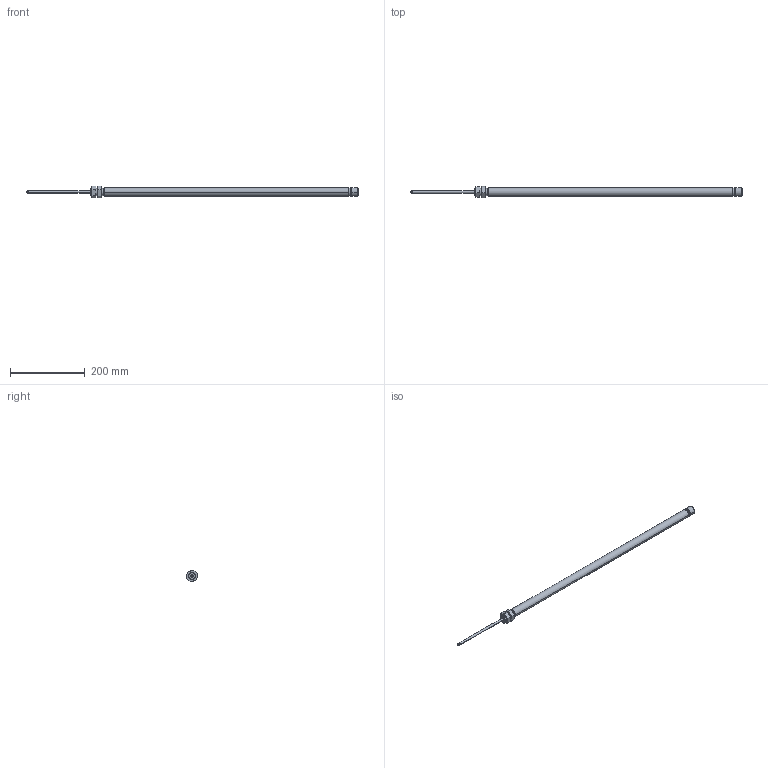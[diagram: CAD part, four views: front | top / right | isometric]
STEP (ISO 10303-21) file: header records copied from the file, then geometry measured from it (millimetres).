
FILE_DESCRIPTION(('STEP AP203'),'1');
FILE_NAME('C:/TPO v2/SharedFS/Outgoing/burster_87356-000_9q9ks7pbdxyhwhcta8knblz8p.stp','2013-08-26T20:25:49',('TraceParts'),('TraceParts S.A.'),'XStep 1.0',' ',' ');
FILE_SCHEMA(('CONFIG_CONTROL_DESIGN'));
Length unit declared in the file: millimetre
Products named in the file (1): 1
Bounding box: 890 x 30.12 x 32.04 mm (x, y, z)
Volume: 281375 mm3; surface area: 57332.8 mm2
Topology: 1 solids, 2 shells, 102 faces, 246 edges, 139 vertices
Faces by surface type: cylinder 49, plane 31, sphere 14, cone 6, torus 2
Entity records: 2854 total; most frequent: DIRECTION 534, CARTESIAN_POINT 496, ORIENTED_EDGE 436, EDGE_CURVE 218, AXIS2_PLACEMENT_3D 217, VERTEX_POINT 139, EDGE_LOOP 121, CIRCLE 114
